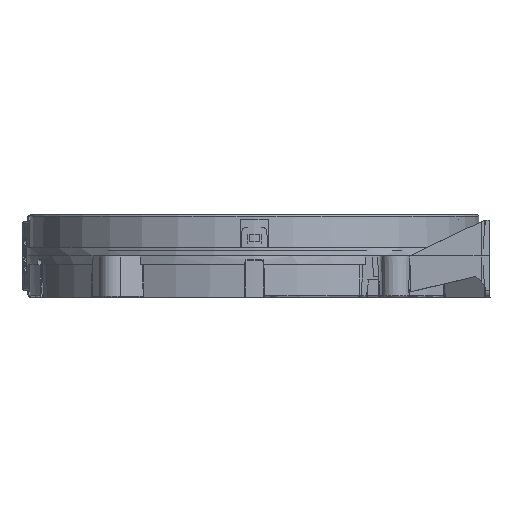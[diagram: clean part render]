
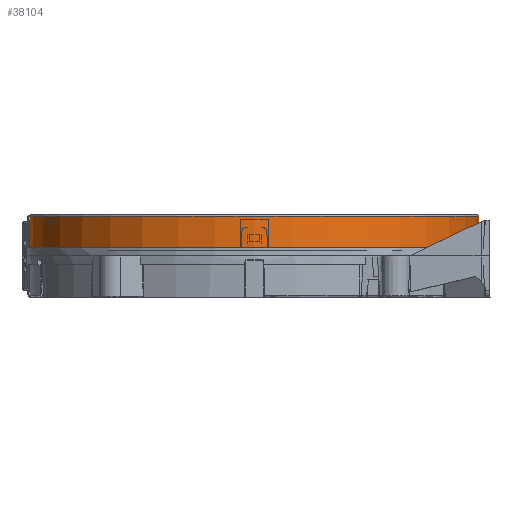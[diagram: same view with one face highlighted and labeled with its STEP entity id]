
A CAD part, left-side view. The second image highlights one B-rep face of the part: STEP entity #38104.
In plain terms, the highlighted conical face has half-angle 1 degrees and reference radius 131.342 mm.
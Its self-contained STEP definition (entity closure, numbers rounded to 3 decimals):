
#6430=DIRECTION('',(0.,0.017,1.));
#6431=VECTOR('',#6430,18.12);
#6432=CARTESIAN_POINT('',(-100.,-131.5,5.));
#6433=LINE('',#6432,#6431);
#6444=CARTESIAN_POINT('',(-100.,0.,23.117));
#6445=DIRECTION('',(0.,0.,-1.));
#6446=DIRECTION('',(0.,-1.,0.));
#6447=AXIS2_PLACEMENT_3D('',#6444,#6445,#6446);
#6449=CARTESIAN_POINT('',(-100.,0.,5.));
#6450=DIRECTION('',(0.,0.,1.));
#6451=DIRECTION('',(0.,1.,0.));
#6452=AXIS2_PLACEMENT_3D('',#6449,#6450,#6451);
#6454=DIRECTION('',(0.,-0.017,1.));
#6455=VECTOR('',#6454,18.12);
#6456=CARTESIAN_POINT('',(-100.,131.5,5.));
#6457=LINE('',#6456,#6455);
#31254=CARTESIAN_POINT('',(-100.,131.5,5.));
#31255=CARTESIAN_POINT('',(-100.,-131.5,5.));
#31256=VERTEX_POINT('',#31254);
#31257=VERTEX_POINT('',#31255);
#32022=CARTESIAN_POINT('',(-100.,131.184,
23.117));
#32024=VERTEX_POINT('',#32022);
#32026=CARTESIAN_POINT('',(-100.,-131.184,23.117));
#32027=VERTEX_POINT('',#32026);
#38092=CARTESIAN_POINT('',(-100.,0.,14.059));
#38093=DIRECTION('',(0.,0.,-1.));
#38094=DIRECTION('',(1.,0.,0.));
#38095=AXIS2_PLACEMENT_3D('',#38092,#38093,#38094);
#38096=CONICAL_SURFACE('',#38095,131.342,1.);
#38097=ORIENTED_EDGE('',*,*,#38082,.F.);
#38098=ORIENTED_EDGE('',*,*,#38057,.F.);
#38099=ORIENTED_EDGE('',*,*,#37770,.F.);
#38101=ORIENTED_EDGE('',*,*,#38100,.T.);
#38102=EDGE_LOOP('',(#38097,#38098,#38099,#38101));
#38103=FACE_OUTER_BOUND('',#38102,.F.);
#6448=CIRCLE('',#6447,131.184);
#6453=CIRCLE('',#6452,131.5);
#37770=EDGE_CURVE('',#31256,#31257,#6453,.T.);
#38057=EDGE_CURVE('',#31257,#32027,#6433,.T.);
#38082=EDGE_CURVE('',#32027,#32024,#6448,.T.);
#38100=EDGE_CURVE('',#31256,#32024,#6457,.T.);
#38104=ADVANCED_FACE('',(#38103),#38096,.T.);
